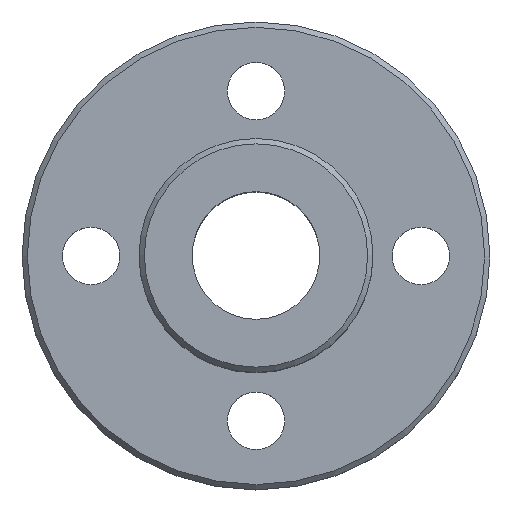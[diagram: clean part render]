
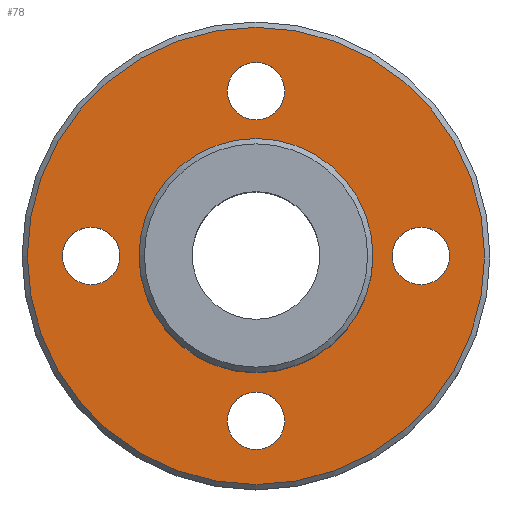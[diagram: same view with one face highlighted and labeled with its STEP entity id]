
A CAD part, top view. The second image highlights one B-rep face of the part: STEP entity #78.
In plain terms, the highlighted planar face has unit normal (0, 0, 1).
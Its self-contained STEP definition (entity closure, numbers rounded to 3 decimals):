
#78=ADVANCED_FACE('',(#102,#103,#104,#105,#106,#107),#108,.T.);
#102=FACE_BOUND('',#149,.T.);
#103=FACE_BOUND('',#150,.T.);
#104=FACE_OUTER_BOUND('',#151,.T.);
#105=FACE_BOUND('',#152,.T.);
#106=FACE_BOUND('',#153,.T.);
#107=FACE_BOUND('',#154,.T.);
#108=PLANE('',#155);
#149=EDGE_LOOP('',(#202));
#150=EDGE_LOOP('',(#203));
#151=EDGE_LOOP('',(#204));
#152=EDGE_LOOP('',(#205));
#153=EDGE_LOOP('',(#206));
#154=EDGE_LOOP('',(#207));
#155=AXIS2_PLACEMENT_3D('',#208,#209,#210);
#202=ORIENTED_EDGE('',*,*,#258,.T.);
#203=ORIENTED_EDGE('',*,*,#264,.T.);
#204=ORIENTED_EDGE('',*,*,#265,.T.);
#205=ORIENTED_EDGE('',*,*,#266,.T.);
#206=ORIENTED_EDGE('',*,*,#267,.T.);
#207=ORIENTED_EDGE('',*,*,#256,.T.);
#208=CARTESIAN_POINT('',(0.,0.0,5.0));
#209=DIRECTION('',(0.0,0.0,1.0));
#210=DIRECTION('',(1.0,0.0,0.0));
#256=EDGE_CURVE('',#273,#273,#274,.F.);
#258=EDGE_CURVE('',#277,#277,#278,.F.);
#264=EDGE_CURVE('',#289,#289,#290,.F.);
#265=EDGE_CURVE('',#291,#291,#292,.T.);
#266=EDGE_CURVE('',#293,#293,#294,.F.);
#267=EDGE_CURVE('',#295,#295,#296,.F.);
#273=VERTEX_POINT('',#307);
#274=CIRCLE('',#308,2.7);
#277=VERTEX_POINT('',#311);
#278=CIRCLE('',#312,2.7);
#289=VERTEX_POINT('',#323);
#290=CIRCLE('',#324,2.7);
#291=VERTEX_POINT('',#325);
#292=CIRCLE('',#326,21.5);
#293=VERTEX_POINT('',#327);
#294=CIRCLE('',#328,11.0);
#295=VERTEX_POINT('',#329);
#296=CIRCLE('',#330,2.7);
#307=CARTESIAN_POINT('',(2.7,-15.5,5.0));
#308=AXIS2_PLACEMENT_3D('',#341,#342,#343);
#311=CARTESIAN_POINT('',(-12.8,0.,5.0));
#312=AXIS2_PLACEMENT_3D('',#347,#348,#349);
#323=CARTESIAN_POINT('',(18.2,0.,5.0));
#324=AXIS2_PLACEMENT_3D('',#365,#366,#367);
#325=CARTESIAN_POINT('',(21.5,0.0,5.0));
#326=AXIS2_PLACEMENT_3D('',#368,#369,#370);
#327=CARTESIAN_POINT('',(11.0,0.,5.0));
#328=AXIS2_PLACEMENT_3D('',#371,#372,#373);
#329=CARTESIAN_POINT('',(2.7,15.5,5.0));
#330=AXIS2_PLACEMENT_3D('',#374,#375,#376);
#341=CARTESIAN_POINT('',(0.,-15.5,5.0));
#342=DIRECTION('',(0.0,0.0,1.0));
#343=DIRECTION('',(1.0,0.0,0.0));
#347=CARTESIAN_POINT('',(-15.5,0.,5.0));
#348=DIRECTION('',(0.0,0.0,1.0));
#349=DIRECTION('',(1.0,0.0,0.0));
#365=CARTESIAN_POINT('',(15.5,0.0,5.0));
#366=DIRECTION('',(0.0,0.0,1.0));
#367=DIRECTION('',(1.0,0.0,0.0));
#368=CARTESIAN_POINT('',(0.,0.0,5.0));
#369=DIRECTION('',(0.0,0.0,1.0));
#370=DIRECTION('',(1.0,0.0,0.0));
#371=CARTESIAN_POINT('',(0.,0.0,5.0));
#372=DIRECTION('',(0.0,0.0,1.0));
#373=DIRECTION('',(1.0,0.0,0.0));
#374=CARTESIAN_POINT('',(0.,15.5,5.0));
#375=DIRECTION('',(0.0,0.0,1.0));
#376=DIRECTION('',(1.0,0.0,0.0));
